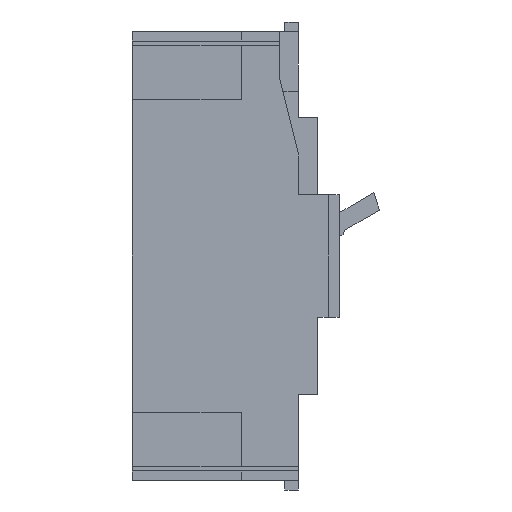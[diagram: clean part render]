
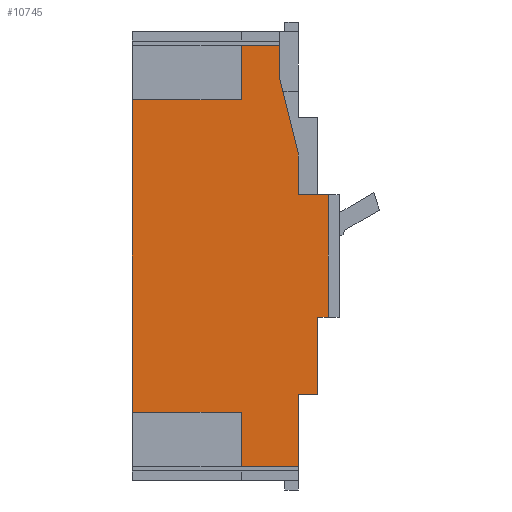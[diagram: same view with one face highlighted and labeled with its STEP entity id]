
A CAD part, left-side view. The second image highlights one B-rep face of the part: STEP entity #10745.
In plain terms, the highlighted planar face has unit normal (-1, 0, 0).
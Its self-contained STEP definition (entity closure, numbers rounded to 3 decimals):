
#2=DIRECTION('',(0.,-1.,0.));
#3=VECTOR('',#2,40.);
#4=CARTESIAN_POINT('',(-70.,30.5,-57.5));
#5=LINE('',#4,#3);
#6=DIRECTION('',(0.,0.,1.));
#7=VECTOR('',#6,115.);
#8=CARTESIAN_POINT('',(-70.,30.5,-57.5));
#9=LINE('',#8,#7);
#10=DIRECTION('',(0.,-1.,0.));
#11=VECTOR('',#10,40.);
#12=CARTESIAN_POINT('',(-70.,30.5,57.5));
#13=LINE('',#12,#11);
#14=DIRECTION('',(0.,0.,-1.));
#15=VECTOR('',#14,20.);
#16=CARTESIAN_POINT('',(-70.,-9.5,77.5));
#17=LINE('',#16,#15);
#18=DIRECTION('',(0.,-1.,0.));
#19=VECTOR('',#18,14.);
#20=CARTESIAN_POINT('',(-70.,-9.5,77.5));
#21=LINE('',#20,#19);
#22=DIRECTION('',(0.,0.,-1.));
#23=VECTOR('',#22,12.);
#24=CARTESIAN_POINT('',(-70.,-23.5,77.5));
#25=LINE('',#24,#23);
#26=DIRECTION('',(0.,0.243,0.97));
#27=VECTOR('',#26,28.862);
#28=CARTESIAN_POINT('',(-70.,-30.5,37.5));
#29=LINE('',#28,#27);
#30=DIRECTION('',(0.,0.,1.));
#31=VECTOR('',#30,15.);
#32=CARTESIAN_POINT('',(-70.,-30.5,22.5));
#33=LINE('',#32,#31);
#34=DIRECTION('',(0.,0.,-1.));
#35=VECTOR('',#34,45.);
#36=CARTESIAN_POINT('',(-70.,-41.5,22.5));
#37=LINE('',#36,#35);
#38=DIRECTION('',(0.,1.,0.));
#39=VECTOR('',#38,4.);
#40=CARTESIAN_POINT('',(-70.,-41.5,-22.5));
#41=LINE('',#40,#39);
#42=DIRECTION('',(0.,0.,-1.));
#43=VECTOR('',#42,28.5);
#44=CARTESIAN_POINT('',(-70.,-37.5,-22.5));
#45=LINE('',#44,#43);
#46=DIRECTION('',(0.,1.,0.));
#47=VECTOR('',#46,7.);
#48=CARTESIAN_POINT('',(-70.,-37.5,-51.));
#49=LINE('',#48,#47);
#50=DIRECTION('',(0.,0.,-1.));
#51=VECTOR('',#50,26.5);
#52=CARTESIAN_POINT('',(-70.,-30.5,-51.));
#53=LINE('',#52,#51);
#54=DIRECTION('',(0.,-1.,0.));
#55=VECTOR('',#54,21.);
#56=CARTESIAN_POINT('',(-70.,-9.5,-77.5));
#57=LINE('',#56,#55);
#58=DIRECTION('',(0.,0.,1.));
#59=VECTOR('',#58,20.);
#60=CARTESIAN_POINT('',(-70.,-9.5,-77.5));
#61=LINE('',#60,#59);
#4278=DIRECTION('',(0.,1.,0.));
#4279=VECTOR('',#4278,11.);
#4280=CARTESIAN_POINT('',(-70.,-41.5,22.5));
#4281=LINE('',#4280,#4279);
#8074=CARTESIAN_POINT('',(-70.,-37.5,-22.5));
#8075=CARTESIAN_POINT('',(-70.,-37.5,-51.));
#8076=VERTEX_POINT('',#8074);
#8077=VERTEX_POINT('',#8075);
#8078=CARTESIAN_POINT('',(-70.,-30.5,-51.));
#8079=VERTEX_POINT('',#8078);
#9196=CARTESIAN_POINT('',(-70.,-30.5,-77.5));
#9197=VERTEX_POINT('',#9196);
#9258=CARTESIAN_POINT('',(-70.,-41.5,22.5));
#9259=CARTESIAN_POINT('',(-70.,-41.5,-22.5));
#9260=VERTEX_POINT('',#9258);
#9261=VERTEX_POINT('',#9259);
#9582=CARTESIAN_POINT('',(-70.,-30.5,22.5));
#9583=VERTEX_POINT('',#9582);
#9584=CARTESIAN_POINT('',(-70.,-30.5,37.5));
#9585=VERTEX_POINT('',#9584);
#9586=CARTESIAN_POINT('',(-70.,-23.5,65.5));
#9588=VERTEX_POINT('',#9586);
#9594=CARTESIAN_POINT('',(-70.,-23.5,77.5));
#9595=VERTEX_POINT('',#9594);
#9794=CARTESIAN_POINT('',(-70.,-9.5,-57.5));
#9795=VERTEX_POINT('',#9794);
#9796=CARTESIAN_POINT('',(-70.,-9.5,57.5));
#9797=VERTEX_POINT('',#9796);
#9798=CARTESIAN_POINT('',(-70.,30.5,-57.5));
#9799=VERTEX_POINT('',#9798);
#9804=CARTESIAN_POINT('',(-70.,-9.5,-77.5));
#9805=VERTEX_POINT('',#9804);
#9810=CARTESIAN_POINT('',(-70.,-9.5,77.5));
#9811=VERTEX_POINT('',#9810);
#9812=CARTESIAN_POINT('',(-70.,30.5,57.5));
#9813=VERTEX_POINT('',#9812);
#10706=CARTESIAN_POINT('',(-70.,0.,0.));
#10707=DIRECTION('',(1.,0.,0.));
#10708=DIRECTION('',(0.,-1.,0.));
#10709=AXIS2_PLACEMENT_3D('',#10706,#10707,#10708);
#10710=PLANE('',#10709);
#10712=ORIENTED_EDGE('',*,*,#10711,.F.);
#10714=ORIENTED_EDGE('',*,*,#10713,.T.);
#10716=ORIENTED_EDGE('',*,*,#10715,.T.);
#10718=ORIENTED_EDGE('',*,*,#10717,.F.);
#10720=ORIENTED_EDGE('',*,*,#10719,.T.);
#10722=ORIENTED_EDGE('',*,*,#10721,.T.);
#10724=ORIENTED_EDGE('',*,*,#10723,.F.);
#10726=ORIENTED_EDGE('',*,*,#10725,.F.);
#10728=ORIENTED_EDGE('',*,*,#10727,.F.);
#10730=ORIENTED_EDGE('',*,*,#10729,.T.);
#10732=ORIENTED_EDGE('',*,*,#10731,.T.);
#10734=ORIENTED_EDGE('',*,*,#10733,.T.);
#10736=ORIENTED_EDGE('',*,*,#10735,.T.);
#10738=ORIENTED_EDGE('',*,*,#10737,.T.);
#10740=ORIENTED_EDGE('',*,*,#10739,.F.);
#10742=ORIENTED_EDGE('',*,*,#10741,.T.);
#10743=EDGE_LOOP('',(#10712,#10714,#10716,#10718,#10720,#10722,#10724,#10726,
#10728,#10730,#10732,#10734,#10736,#10738,#10740,#10742));
#10744=FACE_OUTER_BOUND('',#10743,.F.);
#10711=EDGE_CURVE('',#9799,#9795,#5,.T.);
#10713=EDGE_CURVE('',#9799,#9813,#9,.T.);
#10715=EDGE_CURVE('',#9813,#9797,#13,.T.);
#10717=EDGE_CURVE('',#9811,#9797,#17,.T.);
#10719=EDGE_CURVE('',#9811,#9595,#21,.T.);
#10721=EDGE_CURVE('',#9595,#9588,#25,.T.);
#10723=EDGE_CURVE('',#9585,#9588,#29,.T.);
#10725=EDGE_CURVE('',#9583,#9585,#33,.T.);
#10727=EDGE_CURVE('',#9260,#9583,#4281,.T.);
#10729=EDGE_CURVE('',#9260,#9261,#37,.T.);
#10731=EDGE_CURVE('',#9261,#8076,#41,.T.);
#10733=EDGE_CURVE('',#8076,#8077,#45,.T.);
#10735=EDGE_CURVE('',#8077,#8079,#49,.T.);
#10737=EDGE_CURVE('',#8079,#9197,#53,.T.);
#10739=EDGE_CURVE('',#9805,#9197,#57,.T.);
#10741=EDGE_CURVE('',#9805,#9795,#61,.T.);
#10745=ADVANCED_FACE('',(#10744),#10710,.F.);
